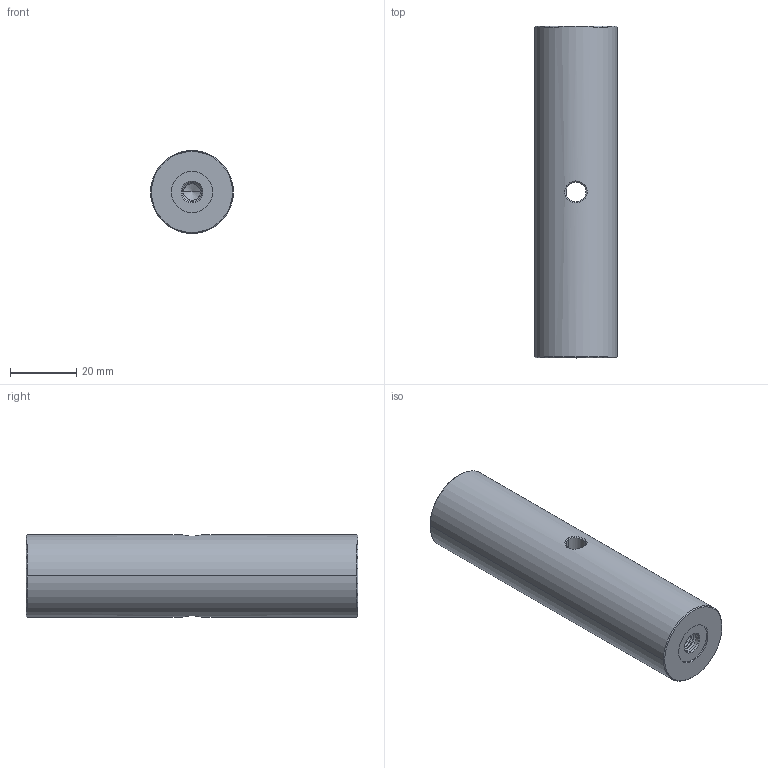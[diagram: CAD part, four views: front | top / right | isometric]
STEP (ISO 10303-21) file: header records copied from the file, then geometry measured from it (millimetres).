
FILE_DESCRIPTION((''),'2;1');
FILE_NAME('CFJP100-S','2020-10-30T',('Administrator'),(''),'CREO PARAMETRIC BY PTC INC, 2015290','CREO PARAMETRIC BY PTC INC, 2015290','');
FILE_SCHEMA(('CONFIG_CONTROL_DESIGN'));
Length unit declared in the file: millimetre
Products named in the file (1): CFJP100-S
Bounding box: 25 x 100 x 25 mm (x, y, z)
Volume: 47561.5 mm3; surface area: 9875.9 mm2
Topology: 1 solids, 1 shells, 96 faces, 252 edges, 158 vertices
Faces by surface type: cylinder 56, bspline 24, cone 12, plane 4
Entity records: 6750 total; most frequent: CARTESIAN_POINT 4678, ORIENTED_EDGE 496, DIRECTION 290, EDGE_CURVE 248, VERTEX_POINT 158, B_SPLINE_CURVE_WITH_KNOTS 130, EDGE_LOOP 102, AXIS2_PLACEMENT_3D 100
